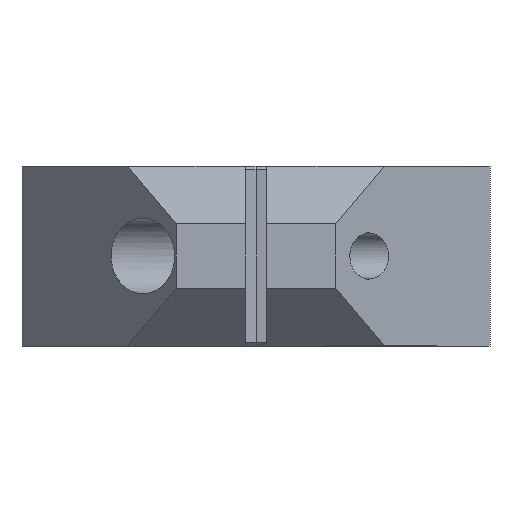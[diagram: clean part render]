
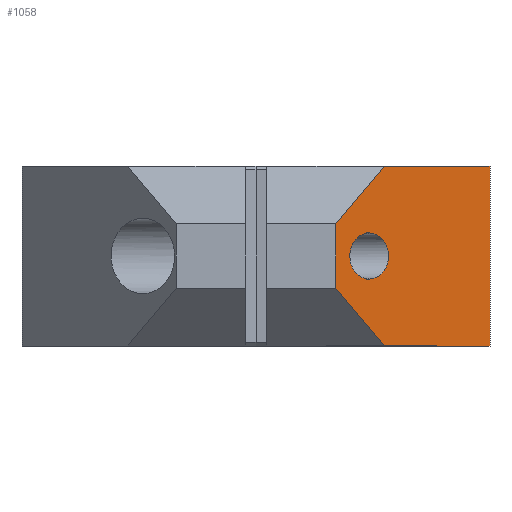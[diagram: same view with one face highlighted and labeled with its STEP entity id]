
A CAD part, left-side view. The second image highlights one B-rep face of the part: STEP entity #1058.
In plain terms, the highlighted planar face has unit normal (-0.643, -0.766, 0).
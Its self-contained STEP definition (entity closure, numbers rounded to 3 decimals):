
#2 = ORIENTED_EDGE ( 'NONE', *, *, #565, .T. ) ;
#6 = CARTESIAN_POINT ( 'NONE',  ( -12.5, -32.5, 12.5 ) ) ;
#9 = EDGE_CURVE ( 'NONE', #1033, #532, #1045, .T. ) ;
#25 = VECTOR ( 'NONE', #677, 1000. ) ;
#40 = VECTOR ( 'NONE', #1073, 1000. ) ;
#55 = VERTEX_POINT ( 'NONE', #180 ) ;
#99 = VERTEX_POINT ( 'NONE', #292 ) ;
#102 = CARTESIAN_POINT ( 'NONE',  ( -38., -11.103, 4.5 ) ) ;
#105 = VERTEX_POINT ( 'NONE', #6 ) ;
#127 = EDGE_CURVE ( 'NONE', #532, #105, #925, .T. ) ;
#162 = CARTESIAN_POINT ( 'NONE',  ( -32.5, -15.718, -3.2 ) ) ;
#168 = DIRECTION ( 'NONE',  ( -0.766, 0.643, 0. ) ) ;
#180 = CARTESIAN_POINT ( 'NONE',  ( -38., -11.103, -4.5 ) ) ;
#183 = CARTESIAN_POINT ( 'NONE',  ( -26.1, -21.088, -3.2 ) ) ;
#205 = DIRECTION ( 'NONE',  ( 0., 0., -1. ) ) ;
#266 = CARTESIAN_POINT ( 'NONE',  ( -30., -17.816, 12.5 ) ) ;
#277 = CARTESIAN_POINT ( 'NONE',  ( -38.9, -10.348, 3.2 ) ) ;
#284 = ORIENTED_EDGE ( 'NONE', *, *, #830, .T. ) ;
#288 = CARTESIAN_POINT ( 'NONE',  ( -12.5, -32.5, 12.5 ) ) ;
#292 = CARTESIAN_POINT ( 'NONE',  ( -32.5, -15.718, 3.2 ) ) ;
#315 = DIRECTION ( 'NONE',  ( 0., 0., 1. ) ) ;
#345 = CARTESIAN_POINT ( 'NONE',  ( -38.9, -10.348, -3.2 ) ) ;
#353 = EDGE_CURVE ( 'NONE', #753, #55, #1180, .T. ) ;
#358 = CARTESIAN_POINT ( 'NONE',  ( -38., -11.103, 12.5 ) ) ;
#373 = CARTESIAN_POINT ( 'NONE',  ( -38., -11.103, -4.5 ) ) ;
#447 = LINE ( 'NONE', #1071, #643 ) ;
#464 = ORIENTED_EDGE ( 'NONE', *, *, #1232, .F. ) ;
#472 = CARTESIAN_POINT ( 'NONE',  ( -12.5, -32.5, -12.5 ) ) ;
#476 = CARTESIAN_POINT ( 'NONE',  ( -32.5, -15.718, 3.2 ) ) ;
#525 = DIRECTION ( 'NONE',  ( 0.608, -0.51, 0.608 ) ) ;
#532 = VERTEX_POINT ( 'NONE', #472 ) ;
#551 = DIRECTION ( 'NONE',  ( 0.643, 0.766, 0. ) ) ;
#557 = EDGE_LOOP ( 'NONE', ( #924, #923, #721, #1158, #1019, #464 ) ) ;
#565 = EDGE_CURVE ( 'NONE', #99, #1174, #627, .T. ) ;
#610 = EDGE_CURVE ( 'NONE', #753, #772, #806, .T. ) ;
#627 =( BOUNDED_CURVE ( )  B_SPLINE_CURVE ( 3, ( #476, #655, #183, #1285 ),
 .UNSPECIFIED., .F., .F. ) 
 B_SPLINE_CURVE_WITH_KNOTS ( ( 4, 4 ),
 ( 1.571, 4.712 ),
 .UNSPECIFIED. ) 
 CURVE ( )  GEOMETRIC_REPRESENTATION_ITEM ( )  RATIONAL_B_SPLINE_CURVE ( ( 1., 0.333, 0.333, 1. ) ) 
 REPRESENTATION_ITEM ( '' )  );
#643 = VECTOR ( 'NONE', #857, 1000. ) ;
#655 = CARTESIAN_POINT ( 'NONE',  ( -26.1, -21.088, 3.2 ) ) ;
#677 = DIRECTION ( 'NONE',  ( 0.766, -0.643, 0. ) ) ;
#721 = ORIENTED_EDGE ( 'NONE', *, *, #814, .T. ) ;
#746 = CARTESIAN_POINT ( 'NONE',  ( -32.5, -15.718, 3.2 ) ) ;
#753 = VERTEX_POINT ( 'NONE', #1046 ) ;
#772 = VERTEX_POINT ( 'NONE', #266 ) ;
#806 = LINE ( 'NONE', #820, #1029 ) ;
#814 = EDGE_CURVE ( 'NONE', #55, #1033, #1001, .T. ) ;
#815 = AXIS2_PLACEMENT_3D ( 'NONE', #358, #551, #168 ) ;
#820 = CARTESIAN_POINT ( 'NONE',  ( -38., -11.103, 4.5 ) ) ;
#830 = EDGE_CURVE ( 'NONE', #1174, #99, #1194, .T. ) ;
#835 = FACE_OUTER_BOUND ( 'NONE', #557, .T. ) ;
#857 = DIRECTION ( 'NONE',  ( 0.766, -0.643, 0. ) ) ;
#858 = PLANE ( 'NONE',  #815 ) ;
#863 = FACE_BOUND ( 'NONE', #1160, .T. ) ;
#886 = VECTOR ( 'NONE', #205, 1000. ) ;
#923 = ORIENTED_EDGE ( 'NONE', *, *, #353, .T. ) ;
#924 = ORIENTED_EDGE ( 'NONE', *, *, #610, .F. ) ;
#925 = LINE ( 'NONE', #288, #1227 ) ;
#977 = CARTESIAN_POINT ( 'NONE',  ( -32.5, -15.718, -3.2 ) ) ;
#1001 = LINE ( 'NONE', #373, #40 ) ;
#1019 = ORIENTED_EDGE ( 'NONE', *, *, #127, .T. ) ;
#1029 = VECTOR ( 'NONE', #525, 1000. ) ;
#1033 = VERTEX_POINT ( 'NONE', #1243 ) ;
#1045 = LINE ( 'NONE', #1172, #25 ) ;
#1046 = CARTESIAN_POINT ( 'NONE',  ( -38., -11.103, 4.5 ) ) ;
#1058 = ADVANCED_FACE ( 'NONE', ( #863, #835 ), #858, .F. ) ;
#1071 = CARTESIAN_POINT ( 'NONE',  ( -30., -17.816, 12.5 ) ) ;
#1073 = DIRECTION ( 'NONE',  ( 0.608, -0.51, -0.608 ) ) ;
#1158 = ORIENTED_EDGE ( 'NONE', *, *, #9, .T. ) ;
#1160 = EDGE_LOOP ( 'NONE', ( #2, #284 ) ) ;
#1172 = CARTESIAN_POINT ( 'NONE',  ( -30., -17.816, -12.5 ) ) ;
#1174 = VERTEX_POINT ( 'NONE', #977 ) ;
#1180 = LINE ( 'NONE', #102, #886 ) ;
#1194 =( BOUNDED_CURVE ( )  B_SPLINE_CURVE ( 3, ( #162, #345, #277, #746 ),
 .UNSPECIFIED., .F., .F. ) 
 B_SPLINE_CURVE_WITH_KNOTS ( ( 4, 4 ),
 ( 4.712, 7.854 ),
 .UNSPECIFIED. ) 
 CURVE ( )  GEOMETRIC_REPRESENTATION_ITEM ( )  RATIONAL_B_SPLINE_CURVE ( ( 1., 0.333, 0.333, 1. ) ) 
 REPRESENTATION_ITEM ( '' )  );
#1227 = VECTOR ( 'NONE', #315, 1000. ) ;
#1232 = EDGE_CURVE ( 'NONE', #772, #105, #447, .T. ) ;
#1243 = CARTESIAN_POINT ( 'NONE',  ( -30., -17.816, -12.5 ) ) ;
#1285 = CARTESIAN_POINT ( 'NONE',  ( -32.5, -15.718, -3.2 ) ) ;
